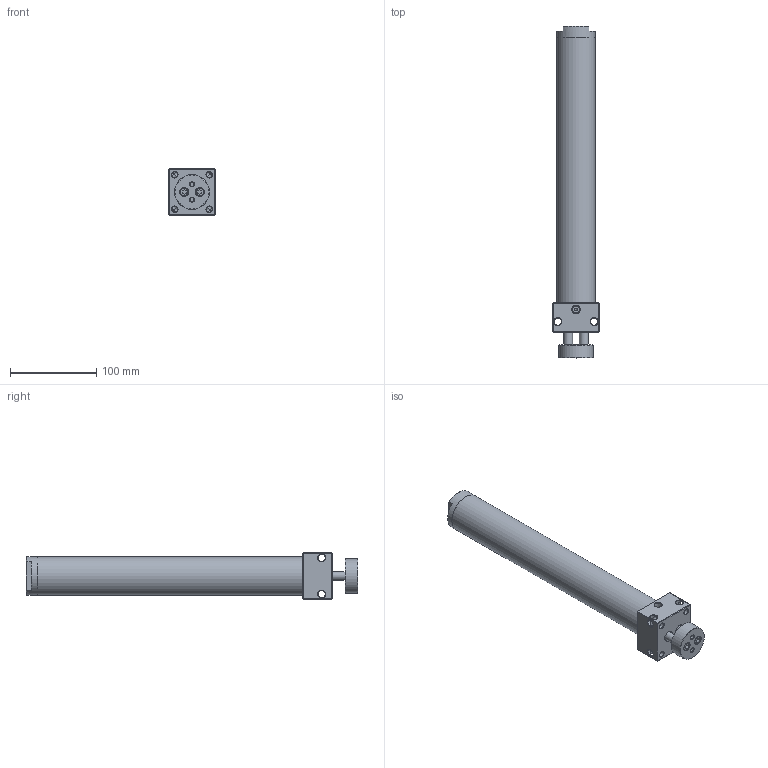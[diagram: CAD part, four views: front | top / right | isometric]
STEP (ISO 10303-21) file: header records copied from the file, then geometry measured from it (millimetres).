
FILE_DESCRIPTION((''),'2;1');
FILE_NAME('I:\3D電子目錄\氣缸\DBT\DBT\DBT40\DBT40x250.stp','2007-10-08T09:01:25',('Administrator'),(''),'Autodesk Inventor 2008','Autodesk Inventor 2008','');
FILE_SCHEMA(('AUTOMOTIVE_DESIGN { 1 0 10303 214 1 1 1 1 }'));
Length unit declared in the file: millimetre
Products named in the file (1): DBT40x250
Bounding box: 54 x 384 x 54 mm (x, y, z)
Volume: 246595.2 mm3; surface area: 121261 mm2
Topology: 5 solids, 5 shells, 164 faces, 360 edges, 215 vertices
Faces by surface type: plane 57, bspline 47, cone 37, cylinder 23
Full cylindrical faces by diameter (mm): 3 x1, 4.3 x1, 6 x1, 9.5 x1, 10 x4, 12 x1, 13 x1, 22 x1, 38.8 x2, 40 x2, 40.8 x2, 42 x2, 42.2 x2, 45 x2
Entity records: 4662 total; most frequent: CARTESIAN_POINT 1568, DIRECTION 604, ORIENTED_EDGE 500, EDGE_LOOP 300, AXIS2_PLACEMENT_3D 256, EDGE_CURVE 250, VERTEX_POINT 196, FACE_OUTER_BOUND 164
